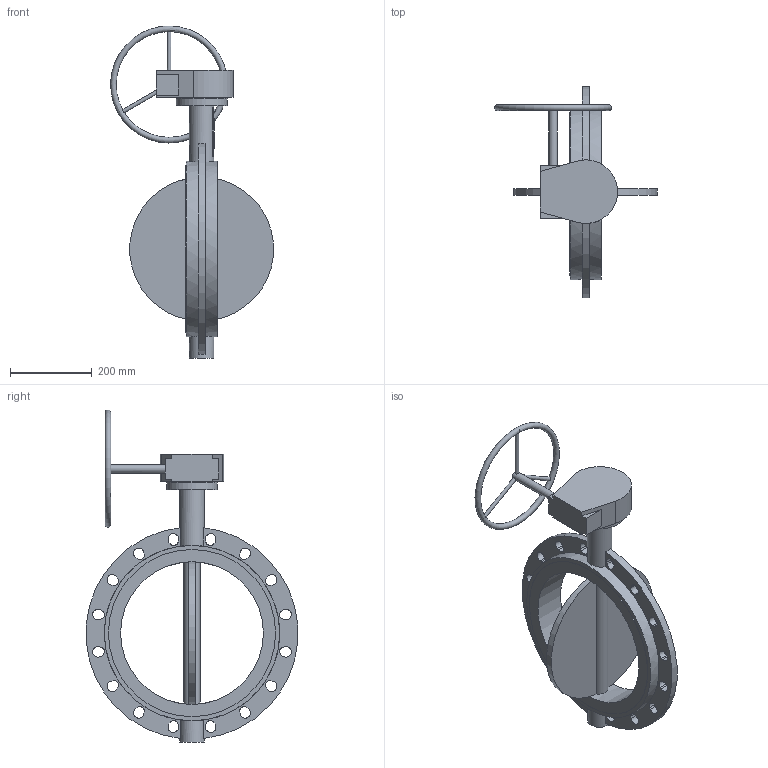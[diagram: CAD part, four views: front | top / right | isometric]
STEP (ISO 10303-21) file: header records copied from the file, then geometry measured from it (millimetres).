
FILE_DESCRIPTION(('STEP AP203'), '1');
FILE_NAME('青蜮铕 017WDN350 疱潴牝铕', '', ('UNSPECIFIED'), ('UNSPECIFIED'), 'ASCON STEP Converter 1.6', 'ASCON Math Kernel', '');
FILE_SCHEMA(('CONFIG_CONTROL_DESIGN'));
Length unit declared in the file: millimetre
Bounding box: 399.33 x 518.08 x 813.97 mm (x, y, z)
Volume: 1871179.8 mm3; surface area: 860196.8 mm2
Topology: 1 solids, 2 shells, 761 faces, 2239 edges, 1448 vertices
Faces by surface type: cylinder 538, plane 222, torus 1
Full cylindrical faces by diameter (mm): 8.5 x4, 9 x3, 12 x4, 20 x1, 31.6 x1, 60 x2, 70 x1, 125 x2, 350 x1, 410 x2, 430 x2
Entity records: 33840 total; most frequent: CARTESIAN_POINT 6445, DIRECTION 4824, ORIENTED_EDGE 4365, EDGE_CURVE 2214, AXIS2_PLACEMENT_3D 1878, VERTEX_POINT 1447, CIRCLE 1116, LINE 1068
